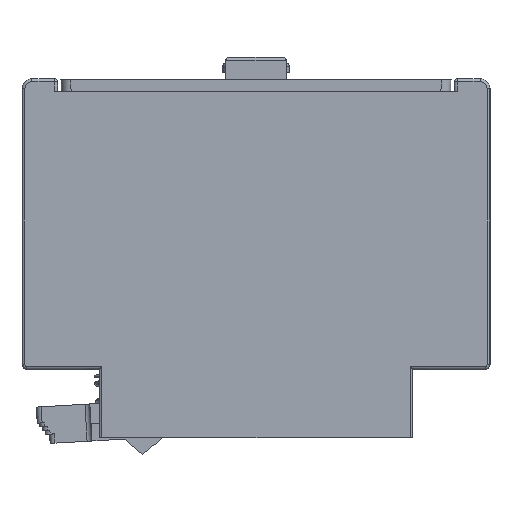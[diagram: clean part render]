
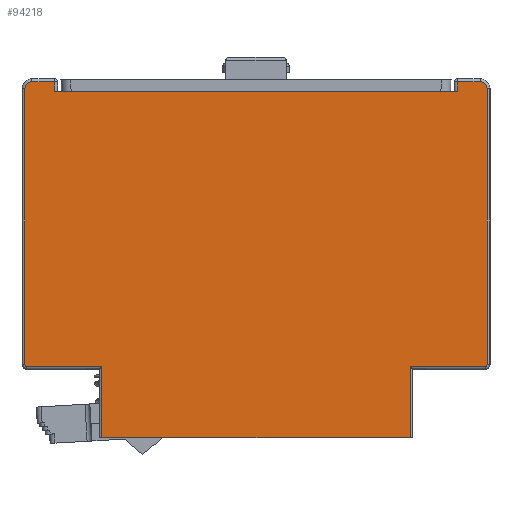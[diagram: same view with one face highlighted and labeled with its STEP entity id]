
A CAD part, left-side view. The second image highlights one B-rep face of the part: STEP entity #94218.
In plain terms, the highlighted planar face has unit normal (-1, 0, 0) as drawn and (0, -1, 0) by its records, which use the part's own axes.
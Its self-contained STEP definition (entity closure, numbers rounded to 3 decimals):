
#213 = CARTESIAN_POINT ( 'NONE',  ( -23.5, -22., 7.5 ) ) ;
#1158 = CARTESIAN_POINT ( 'NONE',  ( -15.8, -22., 7.3 ) ) ;
#1648 = VERTEX_POINT ( 'NONE', #24491 ) ;
#1757 = ORIENTED_EDGE ( 'NONE', *, *, #104569, .T. ) ;
#1827 = DIRECTION ( 'NONE',  ( -1., 0., 0. ) ) ;
#2581 = CARTESIAN_POINT ( 'NONE',  ( 20.65, -22., 35.5 ) ) ;
#3354 = EDGE_CURVE ( 'NONE', #81738, #53471, #102722, .T. ) ;
#3843 = CARTESIAN_POINT ( 'NONE',  ( 15.8, -22., 7.3 ) ) ;
#4433 = CARTESIAN_POINT ( 'NONE',  ( 23., -22., 36.5 ) ) ;
#4957 = DIRECTION ( 'NONE',  ( -1., 0., 0. ) ) ;
#5963 = CARTESIAN_POINT ( 'NONE',  ( -23.5, -22., 7.3 ) ) ;
#6968 = VECTOR ( 'NONE', #21678, 1000. ) ;
#8283 = EDGE_CURVE ( 'NONE', #34683, #53093, #81246, .T. ) ;
#9011 = DIRECTION ( 'NONE',  ( 0., -1., 0. ) ) ;
#9193 = CARTESIAN_POINT ( 'NONE',  ( 20.65, -22., 35.5 ) ) ;
#9304 = VECTOR ( 'NONE', #45885, 1000. ) ;
#9496 = CARTESIAN_POINT ( 'NONE',  ( 23., -22., 35.8 ) ) ;
#9808 = CARTESIAN_POINT ( 'NONE',  ( 15.8, -22., 0. ) ) ;
#10370 = LINE ( 'NONE', #1158, #89413 ) ;
#11048 = VECTOR ( 'NONE', #50086, 1000. ) ;
#15677 = CARTESIAN_POINT ( 'NONE',  ( 20.65, -22., 36.5 ) ) ;
#16178 = EDGE_CURVE ( 'NONE', #32870, #16841, #32114, .T. ) ;
#16699 = VECTOR ( 'NONE', #45807, 1000. ) ;
#16841 = VERTEX_POINT ( 'NONE', #45391 ) ;
#17719 = ORIENTED_EDGE ( 'NONE', *, *, #95367, .T. ) ;
#18342 = LINE ( 'NONE', #101136, #56621 ) ;
#18872 = DIRECTION ( 'NONE',  ( 1., 0., 0. ) ) ;
#19032 = EDGE_CURVE ( 'NONE', #1648, #42772, #10370, .T. ) ;
#19388 = VERTEX_POINT ( 'NONE', #5963 ) ;
#21678 = DIRECTION ( 'NONE',  ( 1., 0., 0. ) ) ;
#22900 = EDGE_LOOP ( 'NONE', ( #65518, #28467, #60766, #75881, #63058, #1757, #25124, #68142, #93633, #70345, #17719, #91371, #60989, #75680, #104967, #49374 ) ) ;
#23724 = VECTOR ( 'NONE', #4957, 1000. ) ;
#24491 = CARTESIAN_POINT ( 'NONE',  ( -15.8, -22., 7.3 ) ) ;
#25124 = ORIENTED_EDGE ( 'NONE', *, *, #3354, .T. ) ;
#28310 = VECTOR ( 'NONE', #93958, 1000. ) ;
#28467 = ORIENTED_EDGE ( 'NONE', *, *, #92875, .T. ) ;
#29452 = VERTEX_POINT ( 'NONE', #80000 ) ;
#31742 = CIRCLE ( 'NONE', #48969, 0.7 ) ;
#32012 = VERTEX_POINT ( 'NONE', #101634 ) ;
#32114 = LINE ( 'NONE', #96525, #42387 ) ;
#32648 = DIRECTION ( 'NONE',  ( -1., 0., 0. ) ) ;
#32870 = VERTEX_POINT ( 'NONE', #4433 ) ;
#33388 = DIRECTION ( 'NONE',  ( 0., 0., 1. ) ) ;
#34533 = EDGE_CURVE ( 'NONE', #32012, #80600, #48480, .T. ) ;
#34683 = VERTEX_POINT ( 'NONE', #68973 ) ;
#34730 = DIRECTION ( 'NONE',  ( 0., 1., 0. ) ) ;
#34754 = DIRECTION ( 'NONE',  ( 0., 0., -1. ) ) ;
#35161 = CARTESIAN_POINT ( 'NONE',  ( 23.7, -22., 35.8 ) ) ;
#36587 = LINE ( 'NONE', #85826, #28310 ) ;
#37612 = CIRCLE ( 'NONE', #82465, 0.2 ) ;
#39106 = EDGE_CURVE ( 'NONE', #102343, #42772, #44736, .T. ) ;
#39522 = EDGE_CURVE ( 'NONE', #95262, #19388, #106582, .T. ) ;
#40375 = LINE ( 'NONE', #73348, #96402 ) ;
#40459 = EDGE_CURVE ( 'NONE', #53471, #34683, #40375, .T. ) ;
#40883 = LINE ( 'NONE', #57120, #63850 ) ;
#41670 = CARTESIAN_POINT ( 'NONE',  ( -23., -22., 36.5 ) ) ;
#42038 = CARTESIAN_POINT ( 'NONE',  ( -23., -22., 35.8 ) ) ;
#42387 = VECTOR ( 'NONE', #32648, 1000. ) ;
#42772 = VERTEX_POINT ( 'NONE', #83340 ) ;
#44736 = LINE ( 'NONE', #86394, #16699 ) ;
#45391 = CARTESIAN_POINT ( 'NONE',  ( 20.65, -22., 36.5 ) ) ;
#45807 = DIRECTION ( 'NONE',  ( -1., 0., 0. ) ) ;
#45885 = DIRECTION ( 'NONE',  ( -1., 0., 0. ) ) ;
#47346 = EDGE_CURVE ( 'NONE', #80600, #32870, #31742, .T. ) ;
#48480 = LINE ( 'NONE', #104230, #11048 ) ;
#48969 = AXIS2_PLACEMENT_3D ( 'NONE', #9496, #50113, #91224 ) ;
#49160 = CARTESIAN_POINT ( 'NONE',  ( -20.65, -22., 35.5 ) ) ;
#49374 = ORIENTED_EDGE ( 'NONE', *, *, #104672, .T. ) ;
#50073 = DIRECTION ( 'NONE',  ( 0., -1., 0. ) ) ;
#50086 = DIRECTION ( 'NONE',  ( 0., 0., 1. ) ) ;
#50113 = DIRECTION ( 'NONE',  ( 0., -1., 0. ) ) ;
#53093 = VERTEX_POINT ( 'NONE', #41670 ) ;
#53471 = VERTEX_POINT ( 'NONE', #49160 ) ;
#55204 = DIRECTION ( 'NONE',  ( 0., -1., 0. ) ) ;
#55736 = DIRECTION ( 'NONE',  ( 0., 0., -1. ) ) ;
#56064 = DIRECTION ( 'NONE',  ( 0., 0., -1. ) ) ;
#56621 = VECTOR ( 'NONE', #18872, 1000. ) ;
#56923 = VERTEX_POINT ( 'NONE', #99406 ) ;
#57120 = CARTESIAN_POINT ( 'NONE',  ( -23.7, -22., 35.8 ) ) ;
#60693 = DIRECTION ( 'NONE',  ( 1., 0., 0. ) ) ;
#60766 = ORIENTED_EDGE ( 'NONE', *, *, #34533, .T. ) ;
#60989 = ORIENTED_EDGE ( 'NONE', *, *, #98450, .T. ) ;
#61726 = AXIS2_PLACEMENT_3D ( 'NONE', #213, #50073, #1827 ) ;
#63058 = ORIENTED_EDGE ( 'NONE', *, *, #16178, .T. ) ;
#63337 = LINE ( 'NONE', #71954, #6968 ) ;
#63850 = VECTOR ( 'NONE', #56064, 1000. ) ;
#65518 = ORIENTED_EDGE ( 'NONE', *, *, #92916, .T. ) ;
#68142 = ORIENTED_EDGE ( 'NONE', *, *, #40459, .T. ) ;
#68788 = FACE_OUTER_BOUND ( 'NONE', #22900, .T. ) ;
#68887 = AXIS2_PLACEMENT_3D ( 'NONE', #101807, #34730, #60693 ) ;
#68973 = CARTESIAN_POINT ( 'NONE',  ( -20.65, -22., 36.5 ) ) ;
#70345 = ORIENTED_EDGE ( 'NONE', *, *, #75023, .T. ) ;
#71954 = CARTESIAN_POINT ( 'NONE',  ( -23.5, -22., 7.3 ) ) ;
#73348 = CARTESIAN_POINT ( 'NONE',  ( -20.65, -22., 35.5 ) ) ;
#74941 = VECTOR ( 'NONE', #81689, 1000. ) ;
#75023 = EDGE_CURVE ( 'NONE', #53093, #56923, #91624, .T. ) ;
#75680 = ORIENTED_EDGE ( 'NONE', *, *, #19032, .T. ) ;
#75881 = ORIENTED_EDGE ( 'NONE', *, *, #47346, .T. ) ;
#79113 = CARTESIAN_POINT ( 'NONE',  ( -20.65, -22., 36.5 ) ) ;
#80000 = CARTESIAN_POINT ( 'NONE',  ( 23.5, -22., 7.3 ) ) ;
#80600 = VERTEX_POINT ( 'NONE', #35161 ) ;
#81246 = LINE ( 'NONE', #79113, #23724 ) ;
#81689 = DIRECTION ( 'NONE',  ( 0., 0., -1. ) ) ;
#81738 = VERTEX_POINT ( 'NONE', #9193 ) ;
#82465 = AXIS2_PLACEMENT_3D ( 'NONE', #96322, #55204, #55736 ) ;
#83340 = CARTESIAN_POINT ( 'NONE',  ( -15.8, -22., 0. ) ) ;
#85826 = CARTESIAN_POINT ( 'NONE',  ( 15.8, -22., 0. ) ) ;
#86394 = CARTESIAN_POINT ( 'NONE',  ( 15.8, -22., 0. ) ) ;
#89413 = VECTOR ( 'NONE', #34754, 1000. ) ;
#89821 = LINE ( 'NONE', #15677, #74941 ) ;
#91224 = DIRECTION ( 'NONE',  ( 1., 0., 0. ) ) ;
#91371 = ORIENTED_EDGE ( 'NONE', *, *, #39522, .T. ) ;
#91624 = CIRCLE ( 'NONE', #107130, 0.7 ) ;
#92632 = PLANE ( 'NONE',  #68887 ) ;
#92875 = EDGE_CURVE ( 'NONE', #29452, #32012, #37612, .T. ) ;
#92916 = EDGE_CURVE ( 'NONE', #106711, #29452, #18342, .T. ) ;
#93633 = ORIENTED_EDGE ( 'NONE', *, *, #8283, .T. ) ;
#93958 = DIRECTION ( 'NONE',  ( 0., 0., 1. ) ) ;
#94218 = ADVANCED_FACE ( 'NONE', ( #68788 ), #92632, .F. ) ;
#95046 = CARTESIAN_POINT ( 'NONE',  ( -23.7, -22., 7.5 ) ) ;
#95262 = VERTEX_POINT ( 'NONE', #95046 ) ;
#95367 = EDGE_CURVE ( 'NONE', #56923, #95262, #40883, .T. ) ;
#96322 = CARTESIAN_POINT ( 'NONE',  ( 23.5, -22., 7.5 ) ) ;
#96402 = VECTOR ( 'NONE', #106907, 1000. ) ;
#96525 = CARTESIAN_POINT ( 'NONE',  ( 23., -22., 36.5 ) ) ;
#98450 = EDGE_CURVE ( 'NONE', #19388, #1648, #63337, .T. ) ;
#99406 = CARTESIAN_POINT ( 'NONE',  ( -23.7, -22., 35.8 ) ) ;
#101136 = CARTESIAN_POINT ( 'NONE',  ( 15.8, -22., 7.3 ) ) ;
#101634 = CARTESIAN_POINT ( 'NONE',  ( 23.7, -22., 7.5 ) ) ;
#101807 = CARTESIAN_POINT ( 'NONE',  ( 0., -22., 0. ) ) ;
#102343 = VERTEX_POINT ( 'NONE', #9808 ) ;
#102722 = LINE ( 'NONE', #2581, #9304 ) ;
#104230 = CARTESIAN_POINT ( 'NONE',  ( 23.7, -22., 7.5 ) ) ;
#104569 = EDGE_CURVE ( 'NONE', #16841, #81738, #89821, .T. ) ;
#104672 = EDGE_CURVE ( 'NONE', #102343, #106711, #36587, .T. ) ;
#104967 = ORIENTED_EDGE ( 'NONE', *, *, #39106, .F. ) ;
#106582 = CIRCLE ( 'NONE', #61726, 0.2 ) ;
#106711 = VERTEX_POINT ( 'NONE', #3843 ) ;
#106907 = DIRECTION ( 'NONE',  ( 0., 0., 1. ) ) ;
#107130 = AXIS2_PLACEMENT_3D ( 'NONE', #42038, #9011, #33388 ) ;
